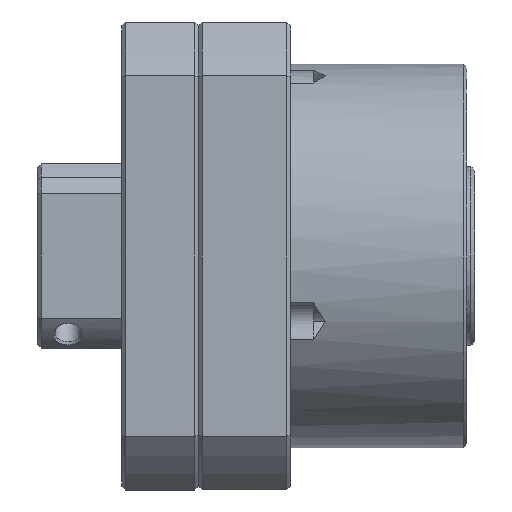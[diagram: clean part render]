
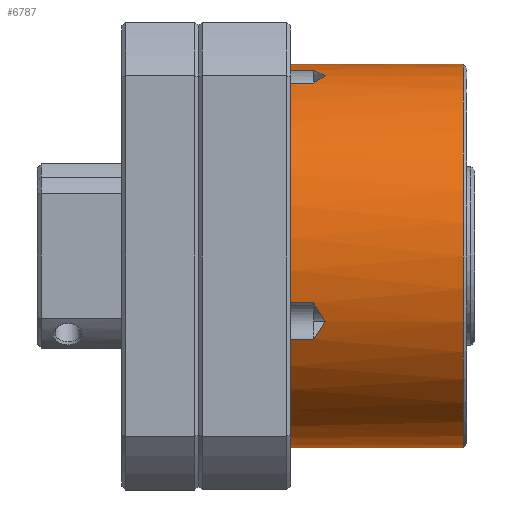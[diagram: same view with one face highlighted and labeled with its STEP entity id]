
A CAD part, front view. The second image highlights one B-rep face of the part: STEP entity #6787.
In plain terms, the highlighted cylindrical face has radius 25 mm (diameter 50 mm), a partial arc.
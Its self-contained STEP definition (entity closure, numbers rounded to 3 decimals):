
#40 = DIRECTION ( 'NONE',  ( 0., 0., 1. ) ) ;
#109 = EDGE_CURVE ( 'NONE', #6740, #519, #1584, .T. ) ;
#121 = VERTEX_POINT ( 'NONE', #7218 ) ;
#213 = ORIENTED_EDGE ( 'NONE', *, *, #7510, .F. ) ;
#257 = CARTESIAN_POINT ( 'NONE',  ( -94.469, 0., 0. ) ) ;
#260 = DIRECTION ( 'NONE',  ( 0., 0., 1. ) ) ;
#342 = DIRECTION ( 'NONE',  ( -1., 0., 0. ) ) ;
#501 = ORIENTED_EDGE ( 'NONE', *, *, #3858, .F. ) ;
#519 = VERTEX_POINT ( 'NONE', #3183 ) ;
#563 = DIRECTION ( 'NONE',  ( -1., 0., 0. ) ) ;
#568 = AXIS2_PLACEMENT_3D ( 'NONE', #7000, #3529, #40 ) ;
#626 = CARTESIAN_POINT ( 'NONE',  ( 16.021, -9.35, 23.201 ) ) ;
#674 = ORIENTED_EDGE ( 'NONE', *, *, #3732, .T. ) ;
#807 = CARTESIAN_POINT ( 'NONE',  ( 15., -6.113, 24.241 ) ) ;
#863 = B_SPLINE_CURVE_WITH_KNOTS ( 'NONE', 3,
 ( #6575, #5433, #6330, #3398 ),
 .UNSPECIFIED., .F., .F.,
 ( 4, 4 ),
 ( 0.001, 0.004 ),
 .UNSPECIFIED. ) ;
#867 = VERTEX_POINT ( 'NONE', #5506 ) ;
#1007 = EDGE_CURVE ( 'NONE', #5950, #2733, #863, .T. ) ;
#1476 = ORIENTED_EDGE ( 'NONE', *, *, #3245, .T. ) ;
#1584 = B_SPLINE_CURVE_WITH_KNOTS ( 'NONE', 3,
 ( #7121, #6592, #6087, #6801 ),
 .UNSPECIFIED., .F., .F.,
 ( 4, 4 ),
 ( 0., 0.003 ),
 .UNSPECIFIED. ) ;
#1636 = DIRECTION ( 'NONE',  ( -1., 0., 0. ) ) ;
#1762 = DIRECTION ( 'NONE',  ( -1., 0., 0. ) ) ;
#1775 = ORIENTED_EDGE ( 'NONE', *, *, #109, .T. ) ;
#1920 = VECTOR ( 'NONE', #1762, 1000. ) ;
#1963 = AXIS2_PLACEMENT_3D ( 'NONE', #5800, #2319, #6384 ) ;
#1999 = DIRECTION ( 'NONE',  ( 0., 0., 1. ) ) ;
#2035 = ORIENTED_EDGE ( 'NONE', *, *, #3827, .T. ) ;
#2052 = EDGE_CURVE ( 'NONE', #6506, #6138, #2341, .T. ) ;
#2243 = ORIENTED_EDGE ( 'NONE', *, *, #1007, .T. ) ;
#2319 = DIRECTION ( 'NONE',  ( -1., 0., 0. ) ) ;
#2339 = VECTOR ( 'NONE', #342, 1000. ) ;
#2341 = CIRCLE ( 'NONE', #1963, 25. ) ;
#2374 = CARTESIAN_POINT ( 'NONE',  ( 15., -10.899, 22.499 ) ) ;
#2388 = AXIS2_PLACEMENT_3D ( 'NONE', #5091, #1636, #5692 ) ;
#2450 = CARTESIAN_POINT ( 'NONE',  ( 15., -24.241, -6.113 ) ) ;
#2517 = EDGE_CURVE ( 'NONE', #6235, #2761, #5230, .T. ) ;
#2572 = DIRECTION ( 'NONE',  ( -1., 0., 0. ) ) ;
#2634 = LINE ( 'NONE', #7448, #4004 ) ;
#2732 = CARTESIAN_POINT ( 'NONE',  ( 34.5, 0., 25. ) ) ;
#2733 = VERTEX_POINT ( 'NONE', #3525 ) ;
#2761 = VERTEX_POINT ( 'NONE', #3545 ) ;
#2773 = ORIENTED_EDGE ( 'NONE', *, *, #2052, .T. ) ;
#2816 = DIRECTION ( 'NONE',  ( 1., 0., 0. ) ) ;
#2838 = CARTESIAN_POINT ( 'NONE',  ( 12., -24.241, -6.113 ) ) ;
#2996 = CARTESIAN_POINT ( 'NONE',  ( 7.5, -6.113, 24.241 ) ) ;
#3013 = EDGE_CURVE ( 'NONE', #6138, #867, #4045, .T. ) ;
#3164 = CARTESIAN_POINT ( 'NONE',  ( 7.5, -22.499, -10.899 ) ) ;
#3183 = CARTESIAN_POINT ( 'NONE',  ( 15., -22.499, -10.899 ) ) ;
#3245 = EDGE_CURVE ( 'NONE', #519, #121, #4177, .T. ) ;
#3339 = CYLINDRICAL_SURFACE ( 'NONE', #6762, 25. ) ;
#3386 = CARTESIAN_POINT ( 'NONE',  ( 34.5, 0., -25. ) ) ;
#3398 = CARTESIAN_POINT ( 'NONE',  ( 16.532, -8.551, 23.492 ) ) ;
#3522 = FACE_OUTER_BOUND ( 'NONE', #5860, .T. ) ;
#3523 = EDGE_CURVE ( 'NONE', #5687, #6740, #4587, .T. ) ;
#3525 = CARTESIAN_POINT ( 'NONE',  ( 16.532, -8.551, 23.492 ) ) ;
#3529 = DIRECTION ( 'NONE',  ( -1., 0., 0. ) ) ;
#3530 = CIRCLE ( 'NONE', #2388, 25. ) ;
#3545 = CARTESIAN_POINT ( 'NONE',  ( 12., -10.899, 22.499 ) ) ;
#3611 = CARTESIAN_POINT ( 'NONE',  ( 16.532, -23.492, -8.551 ) ) ;
#3732 = EDGE_CURVE ( 'NONE', #6235, #5687, #2634, .T. ) ;
#3741 = DIRECTION ( 'NONE',  ( -1., 0., 0. ) ) ;
#3827 = EDGE_CURVE ( 'NONE', #4368, #2761, #4988, .T. ) ;
#3858 = EDGE_CURVE ( 'NONE', #7303, #121, #4806, .T. ) ;
#3933 = EDGE_CURVE ( 'NONE', #4582, #5950, #7342, .T. ) ;
#4004 = VECTOR ( 'NONE', #2816, 1000. ) ;
#4025 = CARTESIAN_POINT ( 'NONE',  ( 7.5, -10.899, 22.499 ) ) ;
#4045 = LINE ( 'NONE', #7499, #6268 ) ;
#4125 = CARTESIAN_POINT ( 'NONE',  ( 12., 0., -25. ) ) ;
#4167 = DIRECTION ( 'NONE',  ( 1., 0., 0. ) ) ;
#4177 = LINE ( 'NONE', #3164, #4992 ) ;
#4231 = CARTESIAN_POINT ( 'NONE',  ( 16.532, -23.492, -8.551 ) ) ;
#4256 = VECTOR ( 'NONE', #4167, 1000. ) ;
#4311 = DIRECTION ( 'NONE',  ( -1., 0., 0. ) ) ;
#4368 = VERTEX_POINT ( 'NONE', #5757 ) ;
#4582 = VERTEX_POINT ( 'NONE', #5443 ) ;
#4587 = B_SPLINE_CURVE_WITH_KNOTS ( 'NONE', 3,
 ( #2450, #6504, #7084, #3611 ),
 .UNSPECIFIED., .F., .F.,
 ( 4, 4 ),
 ( 0.001, 0.004 ),
 .UNSPECIFIED. ) ;
#4680 = CARTESIAN_POINT ( 'NONE',  ( 16.532, -8.551, 23.492 ) ) ;
#4806 = CIRCLE ( 'NONE', #568, 25. ) ;
#4977 = CARTESIAN_POINT ( 'NONE',  ( -94.469, 0., -25. ) ) ;
#4988 = LINE ( 'NONE', #4025, #1920 ) ;
#4992 = VECTOR ( 'NONE', #2572, 1000. ) ;
#5091 = CARTESIAN_POINT ( 'NONE',  ( 12., 0., 0. ) ) ;
#5113 = ORIENTED_EDGE ( 'NONE', *, *, #3523, .T. ) ;
#5230 = CIRCLE ( 'NONE', #7257, 25. ) ;
#5433 = CARTESIAN_POINT ( 'NONE',  ( 15.51, -6.937, 24.033 ) ) ;
#5443 = CARTESIAN_POINT ( 'NONE',  ( 12., -6.113, 24.241 ) ) ;
#5506 = CARTESIAN_POINT ( 'NONE',  ( 12., 0., 25. ) ) ;
#5525 = EDGE_CURVE ( 'NONE', #2733, #4368, #7382, .T. ) ;
#5687 = VERTEX_POINT ( 'NONE', #7133 ) ;
#5692 = DIRECTION ( 'NONE',  ( 0., 0., 1. ) ) ;
#5757 = CARTESIAN_POINT ( 'NONE',  ( 15., -10.899, 22.499 ) ) ;
#5794 = LINE ( 'NONE', #4977, #2339 ) ;
#5800 = CARTESIAN_POINT ( 'NONE',  ( 34.5, 0., 0. ) ) ;
#5851 = CARTESIAN_POINT ( 'NONE',  ( 15.51, -10.134, 22.87 ) ) ;
#5860 = EDGE_LOOP ( 'NONE', ( #213, #2773, #6230, #7305, #6565, #2243, #6389, #2035, #7474, #674, #5113, #1775, #1476, #501 ) ) ;
#5950 = VERTEX_POINT ( 'NONE', #807 ) ;
#6087 = CARTESIAN_POINT ( 'NONE',  ( 15.51, -22.87, -10.134 ) ) ;
#6138 = VERTEX_POINT ( 'NONE', #2732 ) ;
#6177 = EDGE_CURVE ( 'NONE', #4582, #867, #3530, .T. ) ;
#6230 = ORIENTED_EDGE ( 'NONE', *, *, #3013, .T. ) ;
#6235 = VERTEX_POINT ( 'NONE', #2838 ) ;
#6268 = VECTOR ( 'NONE', #563, 1000. ) ;
#6330 = CARTESIAN_POINT ( 'NONE',  ( 16.022, -7.752, 23.783 ) ) ;
#6384 = DIRECTION ( 'NONE',  ( 0., 0., 1. ) ) ;
#6389 = ORIENTED_EDGE ( 'NONE', *, *, #5525, .T. ) ;
#6504 = CARTESIAN_POINT ( 'NONE',  ( 15.51, -24.033, -6.937 ) ) ;
#6506 = VERTEX_POINT ( 'NONE', #3386 ) ;
#6565 = ORIENTED_EDGE ( 'NONE', *, *, #3933, .T. ) ;
#6575 = CARTESIAN_POINT ( 'NONE',  ( 15., -6.113, 24.241 ) ) ;
#6592 = CARTESIAN_POINT ( 'NONE',  ( 16.021, -23.201, -9.35 ) ) ;
#6740 = VERTEX_POINT ( 'NONE', #4231 ) ;
#6762 = AXIS2_PLACEMENT_3D ( 'NONE', #257, #4311, #1999 ) ;
#6787 = ADVANCED_FACE ( 'NONE', ( #3522 ), #3339, .T. ) ;
#6801 = CARTESIAN_POINT ( 'NONE',  ( 15., -22.499, -10.899 ) ) ;
#7000 = CARTESIAN_POINT ( 'NONE',  ( 12., 0., 0. ) ) ;
#7084 = CARTESIAN_POINT ( 'NONE',  ( 16.022, -23.783, -7.752 ) ) ;
#7121 = CARTESIAN_POINT ( 'NONE',  ( 16.532, -23.492, -8.551 ) ) ;
#7133 = CARTESIAN_POINT ( 'NONE',  ( 15., -24.241, -6.113 ) ) ;
#7207 = CARTESIAN_POINT ( 'NONE',  ( 12., 0., 0. ) ) ;
#7218 = CARTESIAN_POINT ( 'NONE',  ( 12., -22.499, -10.899 ) ) ;
#7257 = AXIS2_PLACEMENT_3D ( 'NONE', #7207, #3741, #260 ) ;
#7303 = VERTEX_POINT ( 'NONE', #4125 ) ;
#7305 = ORIENTED_EDGE ( 'NONE', *, *, #6177, .F. ) ;
#7342 = LINE ( 'NONE', #2996, #4256 ) ;
#7382 = B_SPLINE_CURVE_WITH_KNOTS ( 'NONE', 3,
 ( #4680, #626, #5851, #2374 ),
 .UNSPECIFIED., .F., .F.,
 ( 4, 4 ),
 ( 0., 0.003 ),
 .UNSPECIFIED. ) ;
#7448 = CARTESIAN_POINT ( 'NONE',  ( 7.5, -24.241, -6.113 ) ) ;
#7474 = ORIENTED_EDGE ( 'NONE', *, *, #2517, .F. ) ;
#7499 = CARTESIAN_POINT ( 'NONE',  ( -94.469, 0., 25. ) ) ;
#7510 = EDGE_CURVE ( 'NONE', #6506, #7303, #5794, .T. ) ;
